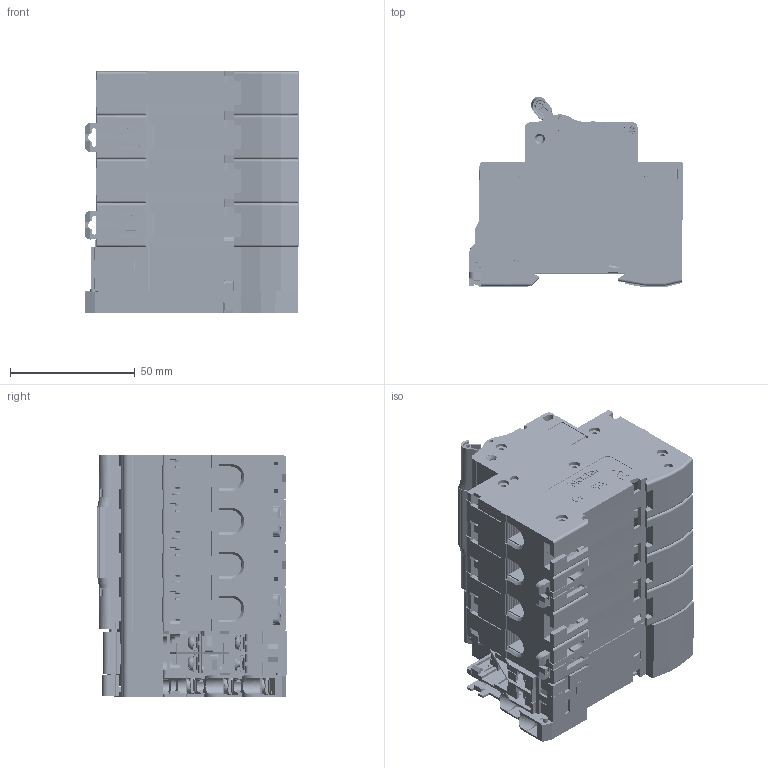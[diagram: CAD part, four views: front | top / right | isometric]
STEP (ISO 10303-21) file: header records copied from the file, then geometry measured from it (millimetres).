
FILE_DESCRIPTION (( 'STEP AP214' ), '1' );
FILE_NAME ('NDB2T-63 4P+MX+OF2+OF2.STEP', '2023-07-10T05:35:57', ( '' ), ( '' ), 'SwSTEP 2.0', 'SolidWorks 2018', '' );
FILE_SCHEMA (( 'AUTOMOTIVE_DESIGN' ));
Length unit declared in the file: millimetre
Products named in the file (29): 8LD.441.106; 8LD.315.168; 8LD.574.105.2; 8LD.024.193; 8LD.233.155; 8LD.371.103; 8LD.516.135; 5LD.574.103; 8LD.281.166; 8LD.024.137; 8LD.574.106; 8LD.143.115; 8LD.574.104; MX+OF2 俋倛芞; 8LD.907.115; 8LD.315.140; OF2 俋倛; 8LD.257.118; 8LD.315.141; 8LD.253.1257; 8LD.253.129; NDB2T-63 4P+MX+OF2+OF2; 4p; 8LD.253.173; 8LD.516.164; 8LD.516.163; 8LD.774.101; 8LD.039.100; 8LD.907.104
Assembly tree (62 placements, depth 4):
  NDB2T-63 4P+MX+OF2+OF2
    4p
      8LD.024.137  x4
      8LD.253.129  x4
      5LD.574.103  x8
        8LD.516.135
        8LD.907.115
      8LD.315.140  x4
      8LD.143.115  x2
      8LD.253.173
      8LD.315.141  x2
      8LD.039.100  x4
      8LD.516.163  x4
      8LD.516.164  x4
    MX+OF2 俋倛芞
      8LD.257.118
      8LD.233.155
      8LD.907.104  x4
      8LD.371.103  x4
      8LD.281.166
      8LD.574.106  x2
      8LD.574.104
      8LD.024.193
      8LD.315.168
      8LD.253.1257
      8LD.774.101
      8LD.441.106
      8LD.574.105.2
    OF2 俋倛
Bounding box: 85.88 x 76.29 x 96.73 mm (x, y, z)
Volume: 350574.9 mm3; surface area: 273470.7 mm2
Topology: 152 solids, 185 shells, 18922 faces, 52752 edges, 34558 vertices
Faces by surface type: plane 11283, cylinder 5273, bspline 1114, cone 1049, torus 164, sphere 39
Entity records: 297500 total; most frequent: CARTESIAN_POINT 94124, ORIENTED_EDGE 44736, DIRECTION 37595, EDGE_CURVE 22368, LINE 15013, VECTOR 15013, VERTEX_POINT 14665, AXIS2_PLACEMENT_3D 11291
